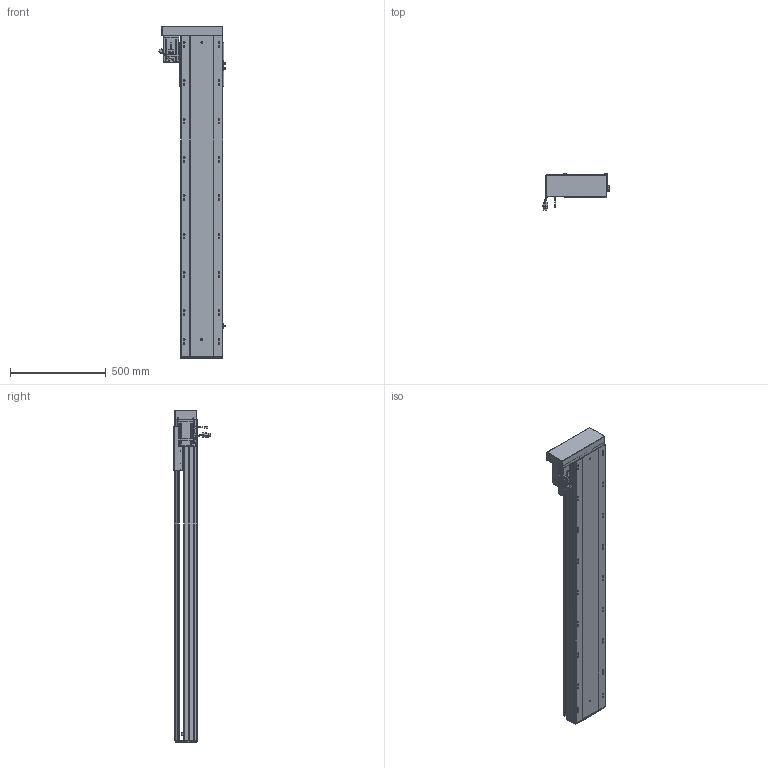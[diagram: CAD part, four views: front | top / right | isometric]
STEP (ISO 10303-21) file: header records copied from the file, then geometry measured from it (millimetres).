
FILE_DESCRIPTION (( 'STEP AP203' ), '1' );
FILE_NAME ('RY220-L2525-300-LK.SLDASM_1350.step', '2022-07-04T01:47:18', ( '' ), ( '' ), 'SwSTEP 2.0', 'SolidWorks 2016', '' );
FILE_SCHEMA (( 'CONFIG_CONTROL_DESIGN' ));
Length unit declared in the file: millimetre
Products named in the file (12): RY220-300-蛌殏奻裔啣_1350; RY220左右折电机安装板; 滅袉蝶18-10; RY220酘衵殏萇儂欶; RY220綴裔啣; 覜茼ん672; 怢湛750W_ECMA-CX0807ES; RY220半封闭25-32螺母铝滑块; 滅袉蝶18-15; RY220-俋离672覜茼んえ; RY220-L2525-300-LK.SLDASM_1350; RY220蛌殏菁釱-300_1350
Assembly tree (15 placements, depth 2):
  RY220-L2525-300-LK.SLDASM_1350
    RY220蛌殏菁釱-300_1350
    RY220-300-蛌殏奻裔啣_1350
    怢湛750W_ECMA-CX0807ES
    滅袉蝶18-10  x2
    RY220-俋离672覜茼んえ
    覜茼ん672  x3
    RY220綴裔啣
    RY220半封闭25-32螺母铝滑块
    滅袉蝶18-15  x2
    RY220左右折电机安装板
    RY220酘衵殏萇儂欶
Bounding box: 347.44 x 189.27 x 1732 mm (x, y, z)
Volume: 13825155 mm3; surface area: 4116307.1 mm2
Topology: 16 solids, 16 shells, 2231 faces, 6156 edges, 3879 vertices
Faces by surface type: cylinder 1019, plane 896, cone 246, bspline 44, sphere 16, torus 10
Entity records: 73645 total; most frequent: CARTESIAN_POINT 21301, ORIENTED_EDGE 10848, DIRECTION 10260, EDGE_CURVE 5424, AXIS2_PLACEMENT_3D 3625, VERTEX_POINT 3535, VECTOR 3010, LINE 3010
